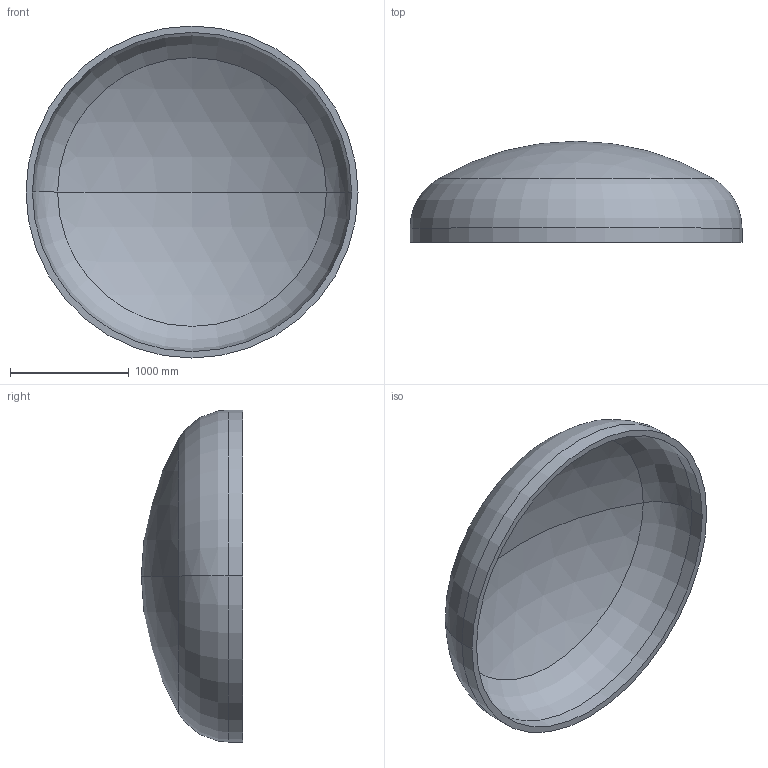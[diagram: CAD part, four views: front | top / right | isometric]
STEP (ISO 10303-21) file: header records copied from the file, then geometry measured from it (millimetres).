
FILE_DESCRIPTION (( 'STEP AP203' ), '1' );
FILE_NAME ('DIN 28013 Korbbogenform_-_Boden DIN 28013 - 2800 x 120 - I - s=54.step', '2016-07-01T17:04:48', ( '' ), ( '' ), 'SwSTEP 2.0', 'SolidWorks 2013', '' );
FILE_SCHEMA (( 'CONFIG_CONTROL_DESIGN' ));
Length unit declared in the file: millimetre
Products named in the file (1): DIN 28013 Korbbogenform_-_Boden DIN 28013 - 2800 x 120 - I - s=54
Bounding box: 2800 x 852.9 x 2800 mm (x, y, z)
Volume: 504619292.7 mm3; surface area: 19161552.3 mm2
Topology: 1 solids, 1 shells, 13 faces, 24 edges, 14 vertices
Faces by surface type: torus 4, cylinder 4, sphere 4, plane 1
Entity records: 407 total; most frequent: DIRECTION 72, CARTESIAN_POINT 52, ORIENTED_EDGE 48, AXIS2_PLACEMENT_3D 34, EDGE_CURVE 24, CIRCLE 20, VERTEX_POINT 14, EDGE_LOOP 14
